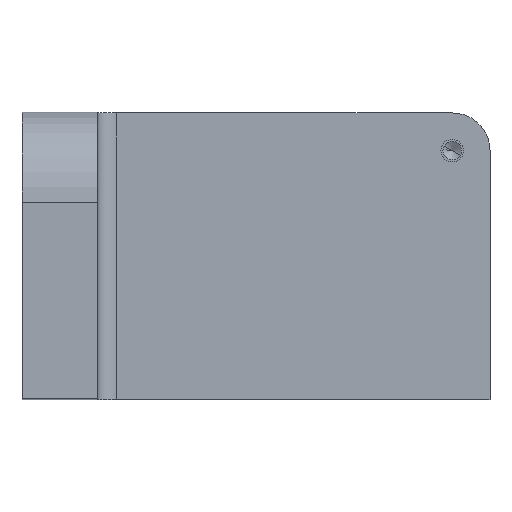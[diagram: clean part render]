
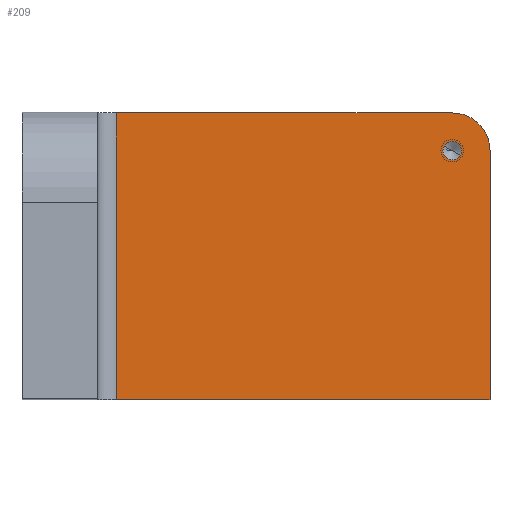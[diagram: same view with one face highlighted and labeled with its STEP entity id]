
A CAD part, top view. The second image highlights one B-rep face of the part: STEP entity #209.
In plain terms, the highlighted planar face has unit normal (0, 0, 1).
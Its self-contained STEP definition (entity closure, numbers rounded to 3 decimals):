
#144=CARTESIAN_POINT('Axis2P3D Location',(0.,0.,20.)) ;
#149=CARTESIAN_POINT('Line Origine',(74.5,0.,20.)) ;
#153=CARTESIAN_POINT('Vertex',(25.,0.,20.)) ;
#155=CARTESIAN_POINT('Vertex',(124.,0.,20.)) ;
#158=CARTESIAN_POINT('Line Origine',(124.,33.,20.)) ;
#162=CARTESIAN_POINT('Vertex',(124.,66.,20.)) ;
#165=CARTESIAN_POINT('Axis2P3D Location',(114.,66.,20.)) ;
#169=CARTESIAN_POINT('Vertex',(114.,76.,20.)) ;
#172=CARTESIAN_POINT('Line Origine',(69.5,76.,20.)) ;
#176=CARTESIAN_POINT('Vertex',(25.,76.,20.)) ;
#179=CARTESIAN_POINT('Line Origine',(25.,38.,20.)) ;
#191=CARTESIAN_POINT('Axis2P3D Location',(114.,66.,20.)) ;
#195=CARTESIAN_POINT('Vertex',(111.842,67.179,20.)) ;
#197=CARTESIAN_POINT('Vertex',(116.158,64.821,20.)) ;
#200=CARTESIAN_POINT('Axis2P3D Location',(114.,66.,20.)) ;
#145=DIRECTION('Axis2P3D Direction',(0.,0.,1.)) ;
#146=DIRECTION('Axis2P3D XDirection',(1.,0.,0.)) ;
#150=DIRECTION('Vector Direction',(1.,0.,0.)) ;
#159=DIRECTION('Vector Direction',(0.,1.,0.)) ;
#166=DIRECTION('Axis2P3D Direction',(0.,0.,1.)) ;
#173=DIRECTION('Vector Direction',(-1.,0.,0.)) ;
#180=DIRECTION('Vector Direction',(0.,-1.,0.)) ;
#192=DIRECTION('Axis2P3D Direction',(0.,0.,1.)) ;
#201=DIRECTION('Axis2P3D Direction',(0.,0.,1.)) ;
#147=AXIS2_PLACEMENT_3D('Plane Axis2P3D',#144,#145,#146) ;
#167=AXIS2_PLACEMENT_3D('Circle Axis2P3D',#165,#166,$) ;
#193=AXIS2_PLACEMENT_3D('Circle Axis2P3D',#191,#192,$) ;
#202=AXIS2_PLACEMENT_3D('Circle Axis2P3D',#200,#201,$) ;
#185=ORIENTED_EDGE('',*,*,#157,.T.) ;
#186=ORIENTED_EDGE('',*,*,#164,.T.) ;
#187=ORIENTED_EDGE('',*,*,#171,.T.) ;
#188=ORIENTED_EDGE('',*,*,#178,.T.) ;
#189=ORIENTED_EDGE('',*,*,#183,.F.) ;
#206=ORIENTED_EDGE('',*,*,#199,.F.) ;
#207=ORIENTED_EDGE('',*,*,#204,.F.) ;
#208=FACE_BOUND('',#205,.T.) ;
#151=VECTOR('Line Direction',#150,1.) ;
#160=VECTOR('Line Direction',#159,1.) ;
#174=VECTOR('Line Direction',#173,1.) ;
#181=VECTOR('Line Direction',#180,1.) ;
#209=ADVANCED_FACE('PartBody',(#190,#208),#148,.T.) ;
#168=CIRCLE('generated circle',#167,10.) ;
#194=CIRCLE('generated circle',#193,2.459) ;
#203=CIRCLE('generated circle',#202,2.459) ;
#157=EDGE_CURVE('',#154,#156,#152,.T.) ;
#164=EDGE_CURVE('',#156,#163,#161,.T.) ;
#171=EDGE_CURVE('',#163,#170,#168,.T.) ;
#178=EDGE_CURVE('',#170,#177,#175,.T.) ;
#183=EDGE_CURVE('',#154,#177,#182,.F.) ;
#199=EDGE_CURVE('',#196,#198,#194,.T.) ;
#204=EDGE_CURVE('',#198,#196,#203,.T.) ;
#184=EDGE_LOOP('',(#185,#186,#187,#188,#189)) ;
#205=EDGE_LOOP('',(#206,#207)) ;
#190=FACE_OUTER_BOUND('',#184,.T.) ;
#152=LINE('Line',#149,#151) ;
#161=LINE('Line',#158,#160) ;
#175=LINE('Line',#172,#174) ;
#182=LINE('Line',#179,#181) ;
#148=PLANE('',#147) ;
#154=VERTEX_POINT('',#153) ;
#156=VERTEX_POINT('',#155) ;
#163=VERTEX_POINT('',#162) ;
#170=VERTEX_POINT('',#169) ;
#177=VERTEX_POINT('',#176) ;
#196=VERTEX_POINT('',#195) ;
#198=VERTEX_POINT('',#197) ;
